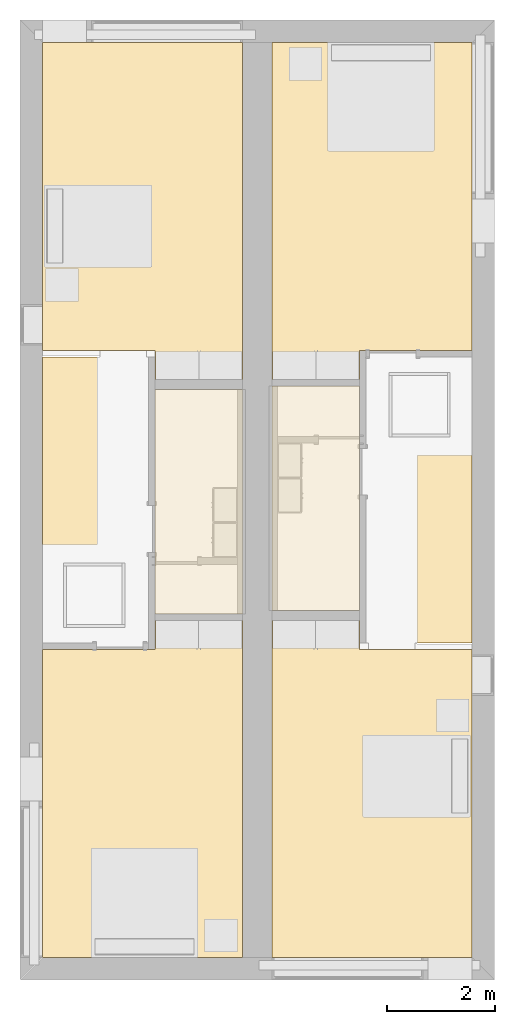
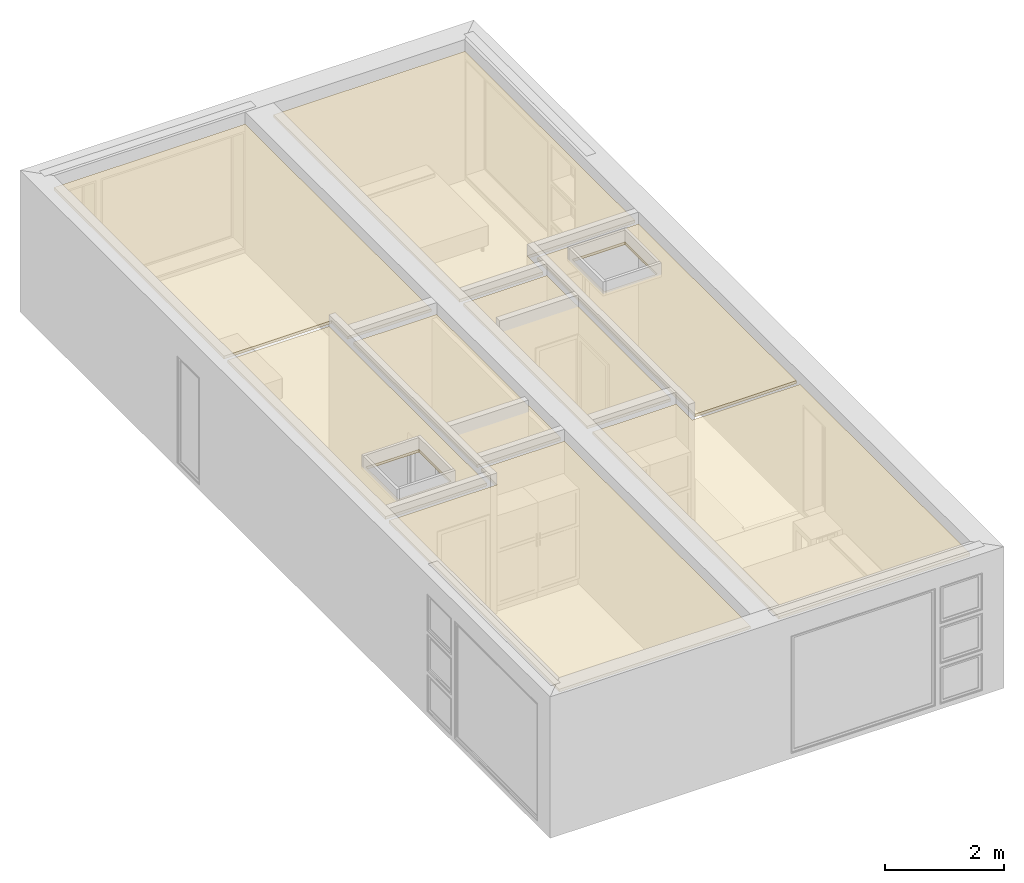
# One storey, part 6 of 16: 8 coverings.
"""IFC4 building model written with IfcOpenShell, lengths in metres."""

from ifc_helpers import new_model, entity, si_unit, converted_unit, frame, origin, place, context, project, spatial, face_set, surface_model, material, layer, layer_set, layer_usage, element, save


model = new_model("IFC4")

# Units and contexts
model_context = context("Model", 3, precision=1e-09, world=origin())
plan_context = context("Plan", 3, precision=1e-09, world=origin())
ifc_project = project(units=[si_unit("LENGTHUNIT", "METRE"), si_unit("AREAUNIT", "SQUARE_METRE"), si_unit("VOLUMEUNIT", "CUBIC_METRE"), converted_unit("PLANEANGLEUNIT", "DEGREE", entity("IfcRatioMeasure", 0.01745329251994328), si_unit("PLANEANGLEUNIT", "RADIAN"), dimensions=[0, 0, 0, 0, 0, 0, 0]), si_unit("TIMEUNIT", "SECOND")], contexts=[model_context, plan_context])

# Site, building, storey
site_placement = place(None, origin())
site = spatial("IfcSite", under=ifc_project, at=site_placement, Name="Default", CompositionType="ELEMENT")
building_placement = place(site_placement, origin())
building = spatial("IfcBuilding", under=site, at=building_placement, CompositionType="ELEMENT")
storey_placement = place(building_placement, frame((0.0, 0.0, 3.100000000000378)))
storey = spatial("IfcBuildingStorey", under=building, at=storey_placement, Name="Level 2", CompositionType="ELEMENT", Elevation=3.100000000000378)

# Coverings
ifc_material_1 = material(Name="Metal - Stud Layer")
ifc_layer_1 = layer(ifc_material_1, 0.045)
ifc_material_2 = material(Name="Plasterboard")
ifc_layer_2 = layer(ifc_material_2, 0.012)
ifc_layer_set = layer_set([ifc_layer_1, ifc_layer_2], Name="Compound Ceiling:Gypsum Board")
ifc_layer_usage_1 = layer_usage(ifc_layer_set, "AXIS3", "NEGATIVE", 0.0)
covering_1_placement = place(storey_placement, origin())
element("IfcCovering", 1, at=covering_1_placement, inside=storey, material=ifc_layer_usage_1, Name="Compound Ceiling:Gypsum Board", ObjectType="Compound Ceiling:Gypsum Board", PredefinedType="CEILING", context=model_context, shape_type="SurfaceModel", body=[
    surface_model("IfcFaceBasedSurfaceModel", [(0.4169999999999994, -11.55, 2.657000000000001), (0.4169999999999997, -6.250000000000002, 2.657000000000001), (2.382, -6.250000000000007, 2.657000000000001), (2.381999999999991, -11.55, 2.657000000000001), (1.890550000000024, -10.12445000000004, 2.657000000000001), (0.861450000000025, -10.12445000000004, 2.657000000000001), (0.861450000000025, -11.20555, 2.657000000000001), (1.890550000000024, -11.20555, 2.657000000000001), (0.4169999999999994, -11.55, 2.600000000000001), (0.4169999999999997, -6.250000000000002, 2.600000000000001), (2.382, -6.250000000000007, 2.600000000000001), (2.381999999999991, -11.55, 2.600000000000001), (1.890550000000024, -10.12445000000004, 2.600000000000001), (0.861450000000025, -10.12445000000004, 2.600000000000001), (0.861450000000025, -11.20555, 2.600000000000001), (1.890550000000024, -11.20555, 2.600000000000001)], [face_set([[[0, 1, 2, 3], [4, 5, 6, 7]], [[8, 9, 10, 11], [12, 13, 14, 15]], [[3, 11, 8, 0]], [[2, 10, 11, 3]], [[1, 2, 10, 9]], [[0, 1, 9, 8]], [[7, 4, 12, 15]], [[6, 7, 15, 14]], [[5, 13, 14, 6]], [[4, 12, 13, 5]]])]),
])
ifc_layer_usage_2 = layer_usage(ifc_layer_set, "AXIS3", "NEGATIVE", 0.0)
covering_2_placement = place(storey_placement, origin())
element("IfcCovering", 2, at=covering_2_placement, inside=storey, material=ifc_layer_usage_2, Name="Compound Ceiling:Gypsum Board", ObjectType="Compound Ceiling:Gypsum Board", PredefinedType="CEILING", context=model_context, shape_type="SurfaceModel", body=[
    surface_model("IfcFaceBasedSurfaceModel", [(4.124999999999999, -0.4170000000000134, 2.656999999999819), (4.124999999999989, -6.666000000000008, 2.656999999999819), (2.505999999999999, -6.666000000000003, 2.656999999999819), (2.506, -6.126000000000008, 2.656999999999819), (0.4169999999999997, -6.126000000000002, 2.656999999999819), (0.417, -0.4170000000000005, 2.656999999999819), (4.124999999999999, -0.4170000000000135, 2.599999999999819), (4.124999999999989, -6.666000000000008, 2.599999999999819), (2.505999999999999, -6.666000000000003, 2.599999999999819), (2.506, -6.126000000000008, 2.599999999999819), (0.4169999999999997, -6.126000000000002, 2.599999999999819), (0.417, -0.4170000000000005, 2.599999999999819)], [face_set([[[0, 1, 2, 3, 4, 5]], [[6, 7, 8, 9, 10, 11]], [[5, 0, 6, 11]], [[4, 5, 11, 10]], [[3, 9, 10, 4]], [[2, 3, 9, 8]], [[1, 7, 8, 2]], [[0, 6, 7, 1]]])]),
])
ifc_layer_usage_3 = layer_usage(ifc_layer_set, "AXIS3", "NEGATIVE", 0.0)
covering_3_placement = place(storey_placement, origin())
element("IfcCovering", 3, at=covering_3_placement, inside=storey, material=ifc_layer_usage_3, Name="Compound Ceiling:Gypsum Board", ObjectType="Compound Ceiling:Gypsum Board", PredefinedType="CEILING", context=model_context, shape_type="SurfaceModel", body=[
    surface_model("IfcFaceBasedSurfaceModel", [(2.505999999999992, -11.134, 2.656999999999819), (2.505999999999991, -11.674, 2.656999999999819), (0.4169999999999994, -11.674, 2.656999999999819), (0.4169999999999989, -17.38299999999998, 2.656999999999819), (4.124999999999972, -17.38299999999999, 2.656999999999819), (4.124999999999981, -11.134, 2.656999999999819), (2.505999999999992, -11.134, 2.599999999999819), (4.124999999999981, -11.134, 2.599999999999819), (4.124999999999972, -17.38299999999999, 2.599999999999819), (0.4169999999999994, -17.38299999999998, 2.599999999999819), (0.4169999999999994, -11.674, 2.599999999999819), (2.505999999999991, -11.674, 2.599999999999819)], [face_set([[[0, 1, 2, 3, 4, 5]], [[6, 7, 8, 9, 10, 11]], [[1, 0, 6, 11]], [[2, 1, 11, 10]], [[3, 2, 10, 9]], [[4, 8, 9, 3]], [[5, 7, 8, 4]], [[0, 5, 7, 6]]])]),
])
ifc_layer_usage_4 = layer_usage(ifc_layer_set, "AXIS3", "NEGATIVE", 0.0)
covering_4_placement = place(storey_placement, origin())
element("IfcCovering", 4, at=covering_4_placement, inside=storey, material=ifc_layer_usage_4, Name="Compound Ceiling:Gypsum Board", ObjectType="Compound Ceiling:Gypsum Board", PredefinedType="CEILING", context=model_context, shape_type="SurfaceModel", body=[
    surface_model("IfcFaceBasedSurfaceModel", [(4.674999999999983, -10.95000000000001, 2.656999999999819), (4.674999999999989, -6.790000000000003, 2.656999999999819), (6.294000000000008, -6.790000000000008, 2.656999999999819), (6.294000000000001, -10.95000000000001, 2.656999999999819), (4.674999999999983, -10.95000000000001, 2.599999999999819), (4.674999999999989, -6.790000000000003, 2.599999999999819), (6.294000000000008, -6.790000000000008, 2.599999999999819), (6.294000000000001, -10.95000000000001, 2.599999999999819)], [face_set([[[0, 1, 2, 3]], [[4, 5, 6, 7]], [[3, 7, 4, 0]], [[2, 6, 7, 3]], [[1, 2, 6, 5]], [[0, 1, 5, 4]]])]),
])
ifc_layer_usage_5 = layer_usage(ifc_layer_set, "AXIS3", "NEGATIVE", 0.0)
covering_5_placement = place(storey_placement, origin())
element("IfcCovering", 5, at=covering_5_placement, inside=storey, material=ifc_layer_usage_5, Name="Compound Ceiling:Gypsum Board", ObjectType="Compound Ceiling:Gypsum Board", PredefinedType="CEILING", context=model_context, shape_type="SurfaceModel", body=[
    surface_model("IfcFaceBasedSurfaceModel", [(4.124999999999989, -6.850000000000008, 2.656999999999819), (4.124999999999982, -11.01, 2.656999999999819), (2.505999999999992, -11.01, 2.656999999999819), (2.505999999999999, -6.850000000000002, 2.656999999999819), (4.124999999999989, -6.850000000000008, 2.599999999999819), (4.124999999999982, -11.01, 2.599999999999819), (2.505999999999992, -11.01, 2.599999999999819), (2.505999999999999, -6.850000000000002, 2.599999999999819)], [face_set([[[0, 1, 2, 3]], [[4, 5, 6, 7]], [[3, 0, 4, 7]], [[2, 3, 7, 6]], [[1, 5, 6, 2]], [[0, 4, 5, 1]]])]),
])
ifc_layer_usage_6 = layer_usage(ifc_layer_set, "AXIS3", "NEGATIVE", 0.0)
covering_6_placement = place(storey_placement, origin())
element("IfcCovering", 6, at=covering_6_placement, inside=storey, material=ifc_layer_usage_6, Name="Compound Ceiling:Gypsum Board", ObjectType="Compound Ceiling:Gypsum Board", PredefinedType="CEILING", context=model_context, shape_type="SurfaceModel", body=[
    surface_model("IfcFaceBasedSurfaceModel", [(8.38299999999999, -6.250000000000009, 2.657000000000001), (8.382999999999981, -11.55, 2.657000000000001), (6.417999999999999, -11.55, 2.657000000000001), (6.418000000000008, -6.250000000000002, 2.657000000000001), (7.92355000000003, -6.594450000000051, 2.657000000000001), (6.89445000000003, -6.594450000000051, 2.657000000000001), (6.89445000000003, -7.675550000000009, 2.657000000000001), (7.92355000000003, -7.675550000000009, 2.657000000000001), (8.38299999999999, -6.250000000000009, 2.600000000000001), (8.382999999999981, -11.55, 2.600000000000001), (6.417999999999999, -11.55, 2.600000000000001), (6.418000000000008, -6.250000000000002, 2.600000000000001), (7.92355000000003, -6.594450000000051, 2.600000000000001), (6.89445000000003, -6.594450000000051, 2.600000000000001), (6.89445000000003, -7.675550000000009, 2.600000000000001), (7.92355000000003, -7.675550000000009, 2.600000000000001)], [face_set([[[0, 1, 2, 3], [4, 5, 6, 7]], [[8, 9, 10, 11], [12, 13, 14, 15]], [[3, 0, 8, 11]], [[2, 3, 11, 10]], [[1, 9, 10, 2]], [[0, 8, 9, 1]], [[7, 4, 12, 15]], [[6, 7, 15, 14]], [[5, 13, 14, 6]], [[4, 12, 13, 5]]])]),
])
ifc_layer_usage_7 = layer_usage(ifc_layer_set, "AXIS3", "NEGATIVE", 0.0)
covering_7_placement = place(storey_placement, origin())
element("IfcCovering", 7, at=covering_7_placement, inside=storey, material=ifc_layer_usage_7, Name="Compound Ceiling:Gypsum Board", ObjectType="Compound Ceiling:Gypsum Board", PredefinedType="CEILING", context=model_context, shape_type="SurfaceModel", body=[
    surface_model("IfcFaceBasedSurfaceModel", [(4.674999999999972, -17.38299999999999, 2.656999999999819), (4.674999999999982, -11.13400000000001, 2.656999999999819), (6.294000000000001, -11.13400000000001, 2.656999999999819), (6.294, -11.674, 2.656999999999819), (8.382999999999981, -11.674, 2.656999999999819), (8.382999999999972, -17.383, 2.656999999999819), (4.674999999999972, -17.38299999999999, 2.599999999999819), (4.674999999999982, -11.13400000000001, 2.599999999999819), (6.294000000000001, -11.13400000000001, 2.599999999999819), (6.294, -11.674, 2.599999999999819), (8.382999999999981, -11.674, 2.599999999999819), (8.382999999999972, -17.383, 2.599999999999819)], [face_set([[[0, 1, 2, 3, 4, 5]], [[6, 7, 8, 9, 10, 11]], [[5, 11, 6, 0]], [[4, 10, 11, 5]], [[3, 4, 10, 9]], [[2, 8, 9, 3]], [[1, 2, 8, 7]], [[0, 1, 7, 6]]])]),
])
ifc_layer_usage_8 = layer_usage(ifc_layer_set, "AXIS3", "NEGATIVE", 0.0)
covering_8_placement = place(storey_placement, origin())
element("IfcCovering", 8, at=covering_8_placement, inside=storey, material=ifc_layer_usage_8, Name="Compound Ceiling:Gypsum Board", ObjectType="Compound Ceiling:Gypsum Board", PredefinedType="CEILING", context=model_context, shape_type="SurfaceModel", body=[
    surface_model("IfcFaceBasedSurfaceModel", [(6.294000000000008, -6.666000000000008, 2.656999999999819), (6.294000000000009, -6.126000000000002, 2.656999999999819), (8.38299999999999, -6.126000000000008, 2.656999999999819), (8.383000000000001, -0.4170000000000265, 2.656999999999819), (4.675, -0.4170000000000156, 2.656999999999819), (4.67499999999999, -6.666000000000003, 2.656999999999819), (6.294000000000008, -6.666000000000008, 2.599999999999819), (4.67499999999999, -6.666000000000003, 2.599999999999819), (4.675, -0.4170000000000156, 2.599999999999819), (8.383000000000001, -0.4170000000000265, 2.599999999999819), (8.38299999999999, -6.126000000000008, 2.599999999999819), (6.294000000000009, -6.126000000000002, 2.599999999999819)], [face_set([[[0, 1, 2, 3, 4, 5]], [[6, 7, 8, 9, 10, 11]], [[1, 11, 6, 0]], [[2, 10, 11, 1]], [[3, 9, 10, 2]], [[4, 3, 9, 8]], [[5, 4, 8, 7]], [[0, 6, 7, 5]]])]),
])

save(model, "model.ifc")
